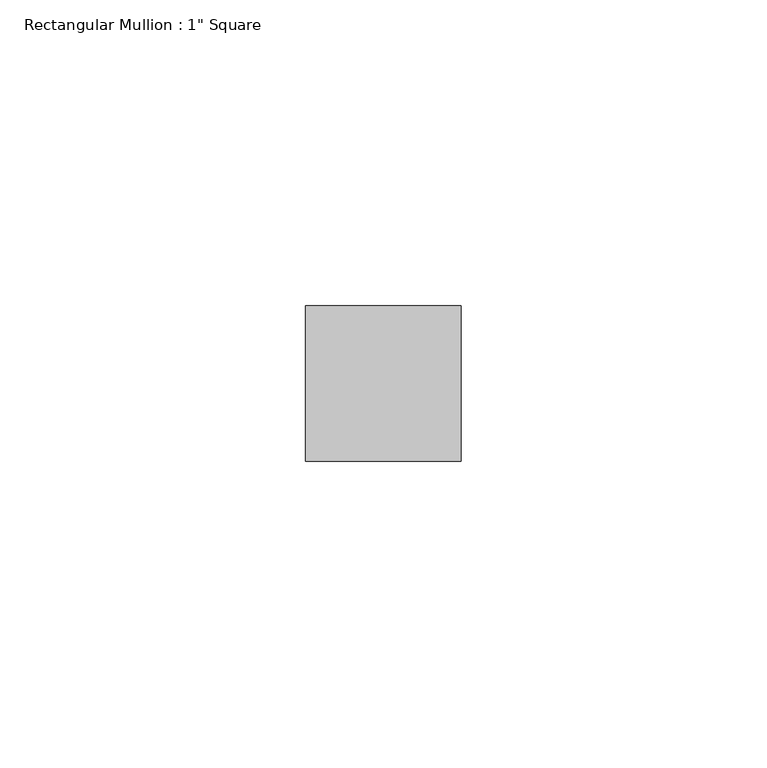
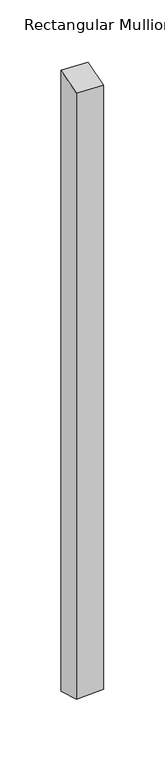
"""IFC4 building model written with IfcOpenShell, lengths in millimetres: member geometry."""

from ifc_helpers import new_model, si_unit, origin, place, context, project, spatial, faceted_brep, source, transform, mapped, element, save


def member_58eada01(model_context):
    return source(origin(), model_context, "Body", "Brep", [
        faceted_brep([(-25.4, 12.7, 4.6326001), (0.0, 12.7, 3.6775682), (0.0, 12.7, -613.2775682), (-25.4, 12.7, -614.2326001), (-25.4, -12.7, -2.7225363), (-25.4, -12.7, -606.8774637), (0.0, -12.7, -3.6775682), (0.0, -12.7, -605.9224318)], [[[0, 1, 2, 3]], [[4, 0, 3, 5]], [[6, 4, 5, 7]], [[1, 6, 7, 2]], [[1, 0, 4, 6]], [[2, 7, 5, 3]]]),
    ])


if __name__ == "__main__":
    model = new_model("IFC4")
    model_context = context("Model", 3, world=origin())
    ifc_project = project(units=[si_unit("LENGTHUNIT", "METRE", prefix="MILLI")], contexts=[model_context])
    site = spatial("IfcSite", under=ifc_project)
    building = spatial("IfcBuilding", under=site)
    placement = place(None, origin())
    member_shape = member_58eada01(model_context)
    element("IfcMember", 1, ObjectType="Rectangular Mullion : 1\" Square", at=placement, inside=building, context=model_context, shape_type="MappedRepresentation", body=[
        mapped(member_shape, transform((0.0, 0.0, 0.0), x_axis=(1.0, 0.0, 0.0), y_axis=(0.0, 1.0, 0.0), z_axis=(0.0, 0.0, 1.0))),
    ])
    save(model, "model.ifc")
